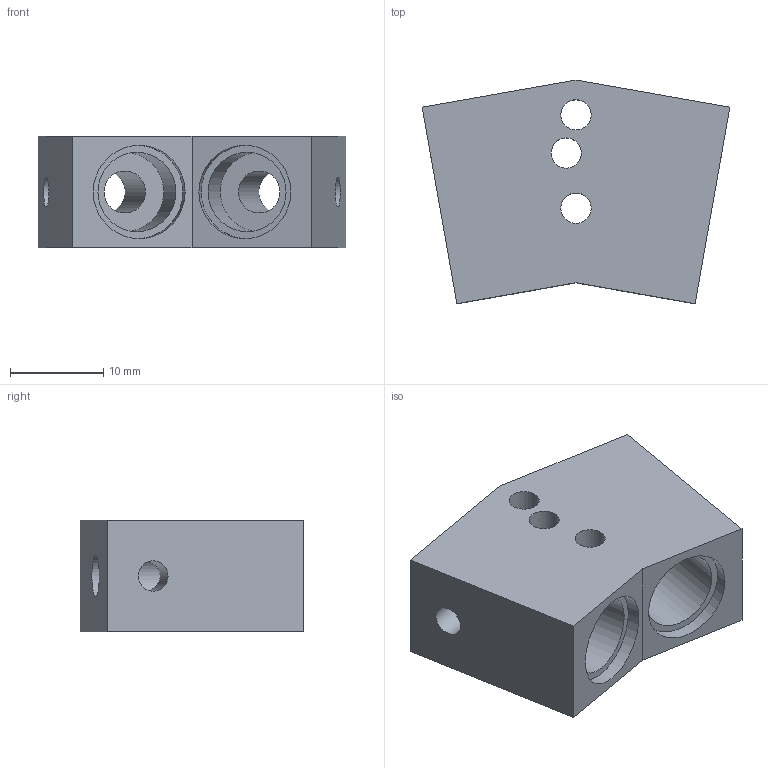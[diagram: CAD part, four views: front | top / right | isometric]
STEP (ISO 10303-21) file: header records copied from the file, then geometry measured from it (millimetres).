
FILE_DESCRIPTION((''),'2;1');
FILE_NAME('Q:\Konstruktion\E-Mail-Zeichnungen\STEP\KL-D-20_0714_00.stp','2012-05-30T12:01:08',('TK-02'),(''),'Autodesk Inventor 2012','Autodesk Inventor 2012','');
FILE_SCHEMA(('AUTOMOTIVE_DESIGN { 1 0 10303 214 1 1 1 1 }'));
Length unit declared in the file: millimetre
Products named in the file (1): 603000
Bounding box: 32.98 x 23.98 x 12 mm (x, y, z)
Volume: 5779.8 mm3; surface area: 3667.5 mm2
Topology: 1 solids, 1 shells, 23 faces, 61 edges, 43 vertices
Faces by surface type: plane 12, cylinder 11
Full cylindrical faces by diameter (mm): 3.242 x5, 4.5 x2, 8.5 x2, 10 x2
Entity records: 706 total; most frequent: CARTESIAN_POINT 164, DIRECTION 106, ORIENTED_EDGE 80, EDGE_LOOP 52, AXIS2_PLACEMENT_3D 44, EDGE_CURVE 40, VERTEX_POINT 34, FACE_BOUND 29
